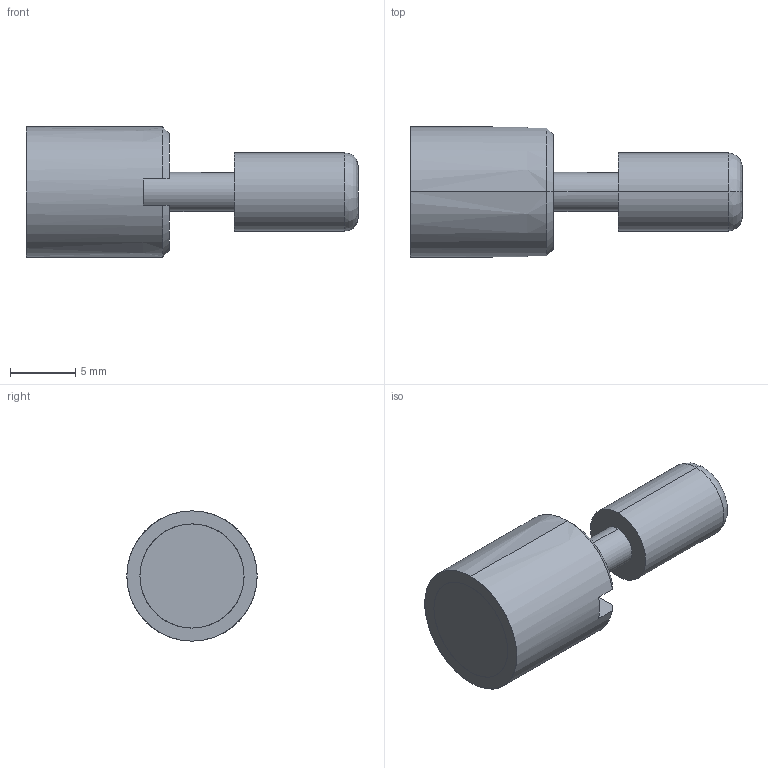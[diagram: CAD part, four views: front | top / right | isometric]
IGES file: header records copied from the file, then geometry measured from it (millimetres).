
Start section: START RECORD GO HERE.
Global section: file name: CF-VPA10.igs; native system: DASSAULT SYSTEMES CATIA V5 R20 - www.3ds.com; preprocessor: CATIA Version 5 Release 20 ; author: Utente; organization: NB04-ASUS; date: 20210324.135637; units: millimetre
Bounding box: 25.5 x 10 x 10 mm (x, y, z)
Surface area: 1076.6 mm2 (no closed solid volume)
Topology: 0 solids, 0 shells, 30 faces, 176 edges, 176 vertices
Faces by surface type: revolution 18, plane 12
